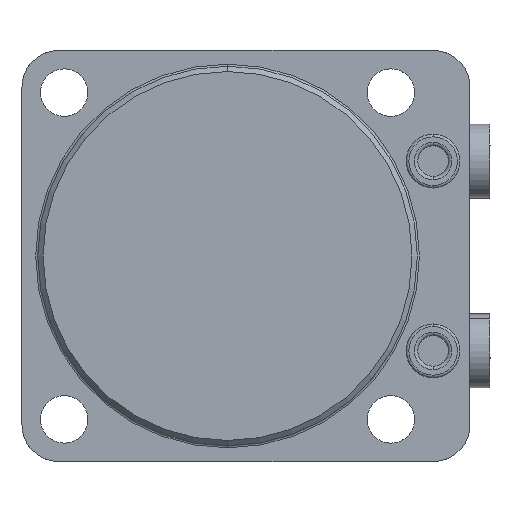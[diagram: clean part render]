
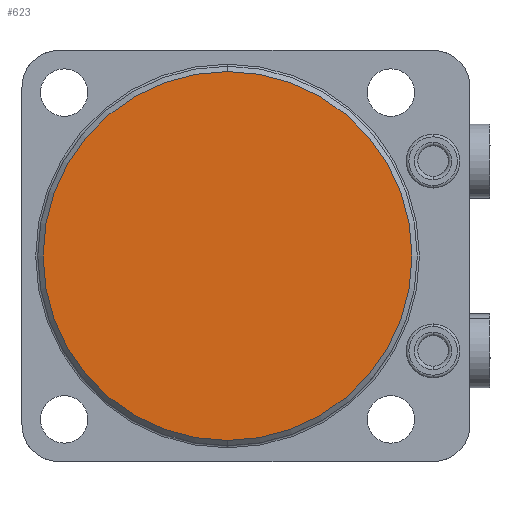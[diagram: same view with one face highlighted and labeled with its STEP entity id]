
A CAD part, front view. The second image highlights one B-rep face of the part: STEP entity #623.
In plain terms, the highlighted planar face has unit normal (0, -1, 0).
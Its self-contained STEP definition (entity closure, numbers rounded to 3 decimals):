
#345=PLANE('',#3919);
#623=ADVANCED_FACE('',(#882),#345,.F.);
#882=FACE_OUTER_BOUND('',#1100,.T.);
#1100=EDGE_LOOP('',(#2007,#2008));
#2007=ORIENTED_EDGE('',*,*,#3190,.T.);
#2008=ORIENTED_EDGE('',*,*,#3131,.T.);
#2767=VERTEX_POINT('',#5938);
#2768=VERTEX_POINT('',#5939);
#3131=EDGE_CURVE('',#2767,#2768,#3531,.T.);
#3190=EDGE_CURVE('',#2768,#2767,#3552,.T.);
#3531=CIRCLE('',#3886,35.);
#3552=CIRCLE('',#3918,35.);
#3886=AXIS2_PLACEMENT_3D('',#5937,#4674,#4675);
#3918=AXIS2_PLACEMENT_3D('',#6133,#4756,#4757);
#3919=AXIS2_PLACEMENT_3D('',#6134,#4758,#4759);
#4674=DIRECTION('',(0.,-1.,0.));
#4675=DIRECTION('',(0.,0.,1.));
#4756=DIRECTION('',(0.,-1.,0.));
#4757=DIRECTION('',(0.,0.,1.));
#4758=DIRECTION('',(0.,1.,0.));
#4759=DIRECTION('',(0.,0.,1.));
#5937=CARTESIAN_POINT('',(0.,-76.,0.));
#5938=CARTESIAN_POINT('',(0.,-76.,-35.));
#5939=CARTESIAN_POINT('',(0.,-76.,35.));
#6133=CARTESIAN_POINT('',(0.,-76.,0.));
#6134=CARTESIAN_POINT('',(0.,-76.,0.));
